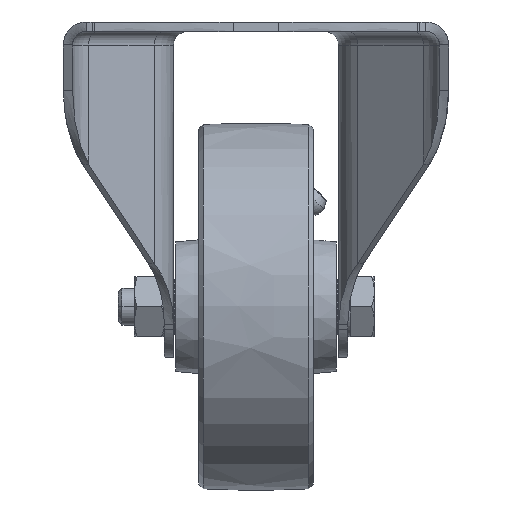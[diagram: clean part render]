
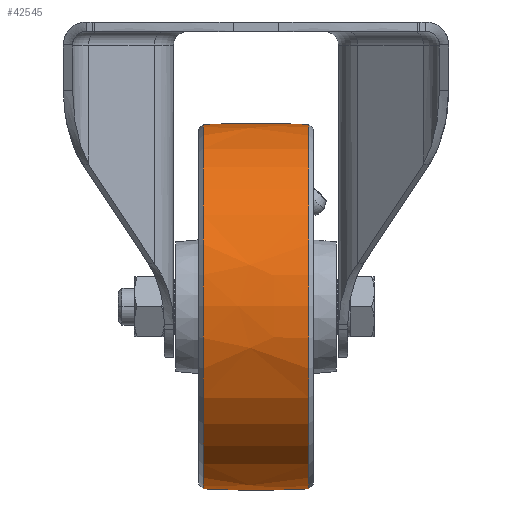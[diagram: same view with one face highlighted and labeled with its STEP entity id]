
A CAD part, top view. The second image highlights one B-rep face of the part: STEP entity #42545.
In plain terms, the highlighted free-form (B-spline) face has degree [3, 3] with [7, 4] control points.
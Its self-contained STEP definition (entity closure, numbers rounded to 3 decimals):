
#178 = CARTESIAN_POINT ( 'NONE',  ( -11.96, 0., -39.702 ) ) ;
#3975 = CARTESIAN_POINT ( 'NONE',  ( 11.5, -39.724, 0. ) ) ;
#4792 = CARTESIAN_POINT ( 'NONE',  ( 11.96, -41.158, -21.891 ) ) ;
#5255 = CARTESIAN_POINT ( 'NONE',  ( 11.96, 0., -39.702 ) ) ;
#5475 = CARTESIAN_POINT ( 'NONE',  ( 3.99, -24.677, -40.099 ) ) ;
#10571 = CARTESIAN_POINT ( 'NONE',  ( 11.96, 24.432, -39.702 ) ) ;
#11685 = VERTEX_POINT ( 'NONE', #43827 ) ;
#12815 = VERTEX_POINT ( 'NONE', #44281 ) ;
#14430 = DIRECTION ( 'NONE',  ( 0.048, 0.999, 0. ) ) ;
#17007 = CARTESIAN_POINT ( 'NONE',  ( 11.96, -39.623, 2.493 ) ) ;
#17901 =( BOUNDED_SURFACE ( )  B_SPLINE_SURFACE ( 3, 3, ( 
 ( #53033, #26818, #63195, #63419 ),
 ( #63654, #47002, #68760, #37043 ),
 ( #10571, #52353, #21490, #62964 ),
 ( #5255, #31221, #31899, #178 ),
 ( #37266, #5475, #68307, #36597 ),
 ( #4792, #64797, #43539, #59253 ),
 ( #17007, #32553, #59714, #59479 ) ),
 .UNSPECIFIED., .F., .F., .F. ) 
 B_SPLINE_SURFACE_WITH_KNOTS ( ( 4, 3, 4 ),
 ( 4, 4 ),
 ( 0., 1., 2. ),
 ( 0., 1. ),
 .UNSPECIFIED. ) 
 GEOMETRIC_REPRESENTATION_ITEM ( )  RATIONAL_B_SPLINE_SURFACE ( (
 ( 1.188, 1.187, 1.187, 1.188),
 ( 0.938, 0.937, 0.937, 0.938),
 ( 0.938, 0.937, 0.937, 0.938),
 ( 1.188, 1.187, 1.187, 1.188),
 ( 0.938, 0.937, 0.937, 0.938),
 ( 0.938, 0.937, 0.937, 0.938),
 ( 1.188, 1.187, 1.187, 1.188) ) ) 
 REPRESENTATION_ITEM ( '' )  SURFACE ( )  );
#18250 = ORIENTED_EDGE ( 'NONE', *, *, #26146, .F. ) ;
#18807 = EDGE_LOOP ( 'NONE', ( #59311, #18250, #56978, #61588 ) ) ;
#20152 = DIRECTION ( 'NONE',  ( 1., 0., 0. ) ) ;
#21345 = CIRCLE ( 'NONE', #47615, 240. ) ;
#21490 = CARTESIAN_POINT ( 'NONE',  ( -3.99, 24.677, -40.099 ) ) ;
#22567 = VERTEX_POINT ( 'NONE', #3975 ) ;
#23148 = DIRECTION ( 'NONE',  ( 1., 0., 0. ) ) ;
#25326 = EDGE_CURVE ( 'NONE', #11685, #12815, #63051, .T. ) ;
#26146 = EDGE_CURVE ( 'NONE', #44046, #12815, #60492, .T. ) ;
#26818 = CARTESIAN_POINT ( 'NONE',  ( 3.99, 40.02, 2.518 ) ) ;
#29310 = DIRECTION ( 'NONE',  ( 0., 0., 1. ) ) ;
#30931 = CIRCLE ( 'NONE', #47297, 39.724 ) ;
#31221 = CARTESIAN_POINT ( 'NONE',  ( 3.99, 0., -40.099 ) ) ;
#31342 = EDGE_CURVE ( 'NONE', #22567, #44046, #30931, .T. ) ;
#31899 = CARTESIAN_POINT ( 'NONE',  ( -3.99, 0., -40.099 ) ) ;
#32553 = CARTESIAN_POINT ( 'NONE',  ( 3.99, -40.02, 2.518 ) ) ;
#33557 = DIRECTION ( 'NONE',  ( 0., -1., 0. ) ) ;
#34265 = CARTESIAN_POINT ( 'NONE',  ( -11.5, 0., 0. ) ) ;
#35705 = DIRECTION ( 'NONE',  ( 0., -1., 0. ) ) ;
#35711 = DIRECTION ( 'NONE',  ( 0., 0., -1. ) ) ;
#36597 = CARTESIAN_POINT ( 'NONE',  ( -11.96, -24.432, -39.702 ) ) ;
#37043 = CARTESIAN_POINT ( 'NONE',  ( -11.96, 41.158, -21.891 ) ) ;
#37266 = CARTESIAN_POINT ( 'NONE',  ( 11.96, -24.432, -39.702 ) ) ;
#38593 = AXIS2_PLACEMENT_3D ( 'NONE', #34265, #23148, #33557 ) ;
#39128 = AXIS2_PLACEMENT_3D ( 'NONE', #40255, #29310, #14430 ) ;
#40255 = CARTESIAN_POINT ( 'NONE',  ( 0., -200., 0. ) ) ;
#41311 = CARTESIAN_POINT ( 'NONE',  ( 0., 200., 0. ) ) ;
#42545 = ADVANCED_FACE ( 'NONE', ( #68243 ), #17901, .T. ) ;
#43539 = CARTESIAN_POINT ( 'NONE',  ( -3.99, -41.57, -22.111 ) ) ;
#43827 = CARTESIAN_POINT ( 'NONE',  ( -11.5, -39.724, 0. ) ) ;
#44046 = VERTEX_POINT ( 'NONE', #53898 ) ;
#44281 = CARTESIAN_POINT ( 'NONE',  ( -11.5, 39.724, 0. ) ) ;
#47002 = CARTESIAN_POINT ( 'NONE',  ( 3.99, 41.57, -22.111 ) ) ;
#47297 = AXIS2_PLACEMENT_3D ( 'NONE', #51254, #20152, #35705 ) ;
#47615 = AXIS2_PLACEMENT_3D ( 'NONE', #41311, #35711, #62561 ) ;
#51254 = CARTESIAN_POINT ( 'NONE',  ( 11.5, 0., 0. ) ) ;
#52353 = CARTESIAN_POINT ( 'NONE',  ( 3.99, 24.677, -40.099 ) ) ;
#53033 = CARTESIAN_POINT ( 'NONE',  ( 11.96, 39.623, 2.493 ) ) ;
#53898 = CARTESIAN_POINT ( 'NONE',  ( 11.5, 39.724, 0. ) ) ;
#56978 = ORIENTED_EDGE ( 'NONE', *, *, #31342, .F. ) ;
#59253 = CARTESIAN_POINT ( 'NONE',  ( -11.96, -41.158, -21.891 ) ) ;
#59311 = ORIENTED_EDGE ( 'NONE', *, *, #25326, .T. ) ;
#59479 = CARTESIAN_POINT ( 'NONE',  ( -11.96, -39.623, 2.493 ) ) ;
#59714 = CARTESIAN_POINT ( 'NONE',  ( -3.99, -40.02, 2.518 ) ) ;
#60492 = CIRCLE ( 'NONE', #39128, 240. ) ;
#60549 = EDGE_CURVE ( 'NONE', #22567, #11685, #21345, .T. ) ;
#61588 = ORIENTED_EDGE ( 'NONE', *, *, #60549, .T. ) ;
#62561 = DIRECTION ( 'NONE',  ( 0.048, -0.999, 0. ) ) ;
#62964 = CARTESIAN_POINT ( 'NONE',  ( -11.96, 24.432, -39.702 ) ) ;
#63051 = CIRCLE ( 'NONE', #38593, 39.724 ) ;
#63195 = CARTESIAN_POINT ( 'NONE',  ( -3.99, 40.02, 2.518 ) ) ;
#63419 = CARTESIAN_POINT ( 'NONE',  ( -11.96, 39.623, 2.493 ) ) ;
#63654 = CARTESIAN_POINT ( 'NONE',  ( 11.96, 41.158, -21.891 ) ) ;
#64797 = CARTESIAN_POINT ( 'NONE',  ( 3.99, -41.57, -22.111 ) ) ;
#68243 = FACE_OUTER_BOUND ( 'NONE', #18807, .T. ) ;
#68307 = CARTESIAN_POINT ( 'NONE',  ( -3.99, -24.677, -40.099 ) ) ;
#68760 = CARTESIAN_POINT ( 'NONE',  ( -3.99, 41.57, -22.111 ) ) ;
